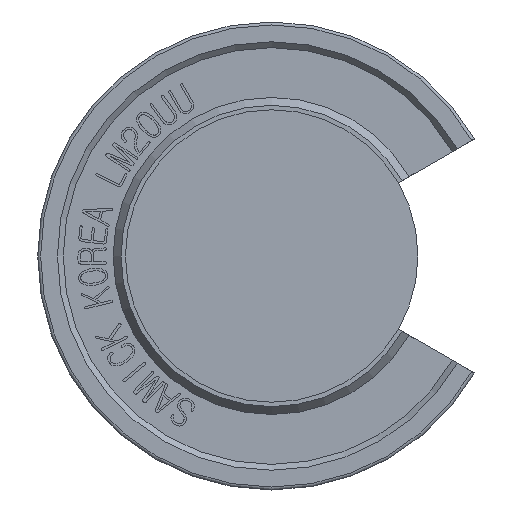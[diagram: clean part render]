
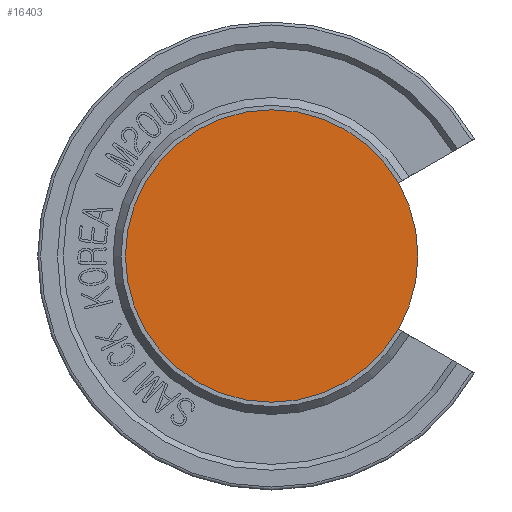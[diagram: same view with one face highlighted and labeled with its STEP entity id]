
A CAD part, front view. The second image highlights one B-rep face of the part: STEP entity #16403.
In plain terms, the highlighted planar face has unit normal (0, -1, 0).
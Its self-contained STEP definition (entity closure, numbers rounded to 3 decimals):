
#53=CIRCLE('',#16690,10.);
#325=PLANE('',#16692);
#1154=FACE_OUTER_BOUND('',#2032,.T.);
#2032=EDGE_LOOP('',(#14151));
#7099=VERTEX_POINT('',#28489);
#9457=EDGE_CURVE('',#7099,#7099,#53,.T.);
#14151=ORIENTED_EDGE('',*,*,#9457,.F.);
#16403=ADVANCED_FACE('',(#1154),#325,.T.);
#16690=AXIS2_PLACEMENT_3D('',#28491,#18369,#18370);
#16692=AXIS2_PLACEMENT_3D('',#28493,#18373,#18374);
#18369=DIRECTION('center_axis',(0.,1.,0.));
#18370=DIRECTION('ref_axis',(1.,0.,0.));
#18373=DIRECTION('center_axis',(0.,-1.,0.));
#18374=DIRECTION('ref_axis',(0.,0.,-1.));
#28489=CARTESIAN_POINT('',(-10.,-47.5,0.));
#28491=CARTESIAN_POINT('Origin',(0.,-47.5,0.));
#28493=CARTESIAN_POINT('Origin',(0.,-47.5,0.));
